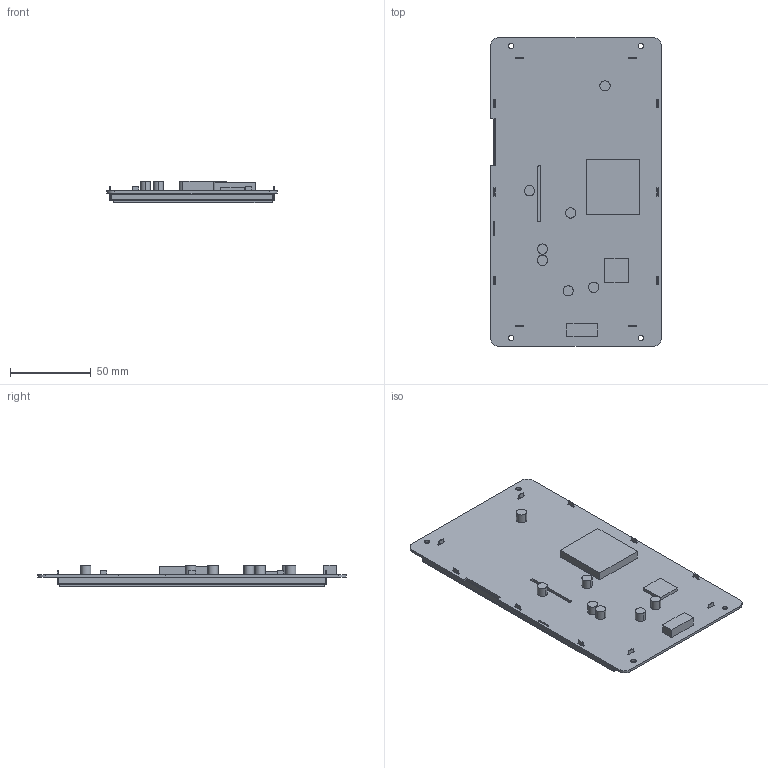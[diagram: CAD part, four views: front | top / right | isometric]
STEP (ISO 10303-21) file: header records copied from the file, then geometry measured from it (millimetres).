
FILE_DESCRIPTION((''),'2;1');
FILE_NAME('DMG80480T070-05WTR','2023-03-29T',('Administrator'),(''),'PRO/ENGINEER BY PARAMETRIC TECHNOLOGY CORPORATION, 2011310','PRO/ENGINEER BY PARAMETRIC TECHNOLOGY CORPORATION, 2011310','');
FILE_SCHEMA(('CONFIG_CONTROL_DESIGN','SHAPE_APPEARANCE_LAYERS_GROUPS'));
Products named in the file (1): DMG80480T070-05WTR
Bounding box: 105.41 x 190.5 x 13.4 mm (x, y, z)
Volume: 116731 mm3; surface area: 111862 mm2
Topology: 1 solids, 2 shells, 215 faces, 16414 edges, 17953 vertices
Faces by surface type: plane 185, cylinder 30
Entity records: 188268 total; most frequent: PRESENTATION_STYLE_ASSIGNMENT 21693, STYLED_ITEM 21693, DIRECTION 21671, CURVE_STYLE 18685, CARTESIAN_POINT 17044, TRIMMED_CURVE 15772, COMPOSITE_CURVE_SEGMENT 14468, VECTOR 11593
